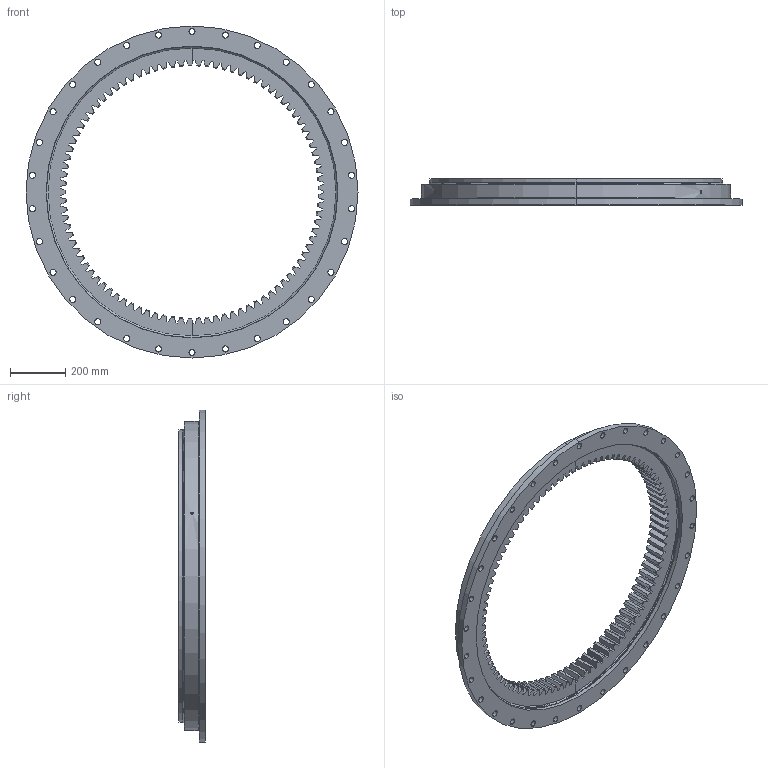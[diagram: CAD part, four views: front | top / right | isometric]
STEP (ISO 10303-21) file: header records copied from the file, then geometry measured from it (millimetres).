
FILE_DESCRIPTION (( 'STEP AP214' ), '1' );
FILE_NAME ('B1130-1-1200AC.STEP', '2022-11-24T06:36:30', ( '' ), ( '' ), 'SwSTEP 2.0', 'SolidWorks 2020', '' );
FILE_SCHEMA (( 'AUTOMOTIVE_DESIGN' ));
Length unit declared in the file: millimetre
Products named in the file (1): B1130-1-1200AC
Bounding box: 1200 x 95 x 1200 mm (x, y, z)
Volume: 25003129.4 mm3; surface area: 2496046.3 mm2
Topology: 4 solids, 4 shells, 866 faces, 2410 edges, 1534 vertices
Faces by surface type: cone 316, cylinder 249, bspline 186, plane 113, torus 2
Entity records: 28712 total; most frequent: CARTESIAN_POINT 8210, ORIENTED_EDGE 4700, DIRECTION 3621, EDGE_CURVE 2350, VERTEX_POINT 1534, AXIS2_PLACEMENT_3D 1435, EDGE_LOOP 976, ADVANCED_FACE 866
